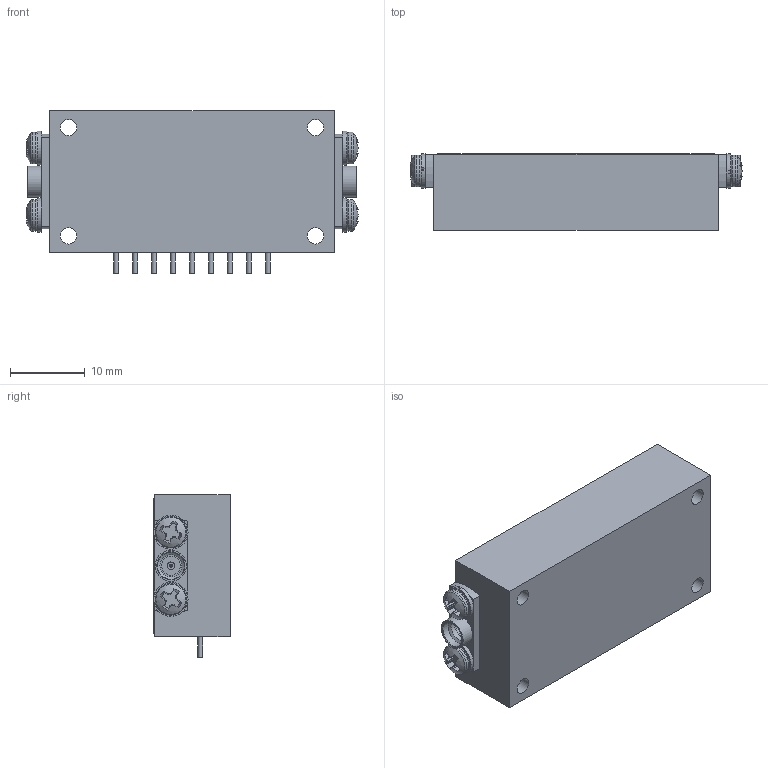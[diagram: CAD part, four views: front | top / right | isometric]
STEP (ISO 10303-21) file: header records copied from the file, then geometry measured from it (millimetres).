
FILE_DESCRIPTION (( 'STEP AP214' ), '1' );
FILE_NAME ('ASSEMBLY - DTA-2G18G-31D5-6-SMP-HERM (REV 4).STEP', '2026-08-11T21:32:19', ( '' ), ( '' ), 'SwSTEP 2.0', 'SolidWorks 2025', '' );
FILE_SCHEMA (( 'AUTOMOTIVE_DESIGN' ));
Length unit declared in the file: inch
Products named in the file (1): ASSEMBLY - DTA-2G18G-31D5-6-SMP-HERM (REV 4)
Bounding box: 44.41 x 10.21 x 21.79 mm (x, y, z)
Volume: 7418.8 mm3; surface area: 5499.7 mm2
Topology: 23 solids, 23 shells, 620 faces, 2236 edges, 1865 vertices
Faces by surface type: plane 337, cylinder 175, torus 70, cone 30, sphere 8
Full cylindrical faces by diameter (mm): 0.305 x4, 0.635 x18, 0.889 x1, 1.016 x2, 1.321 x9, 1.676 x2, 1.778 x4, 1.93 x11, 2.032 x2, 2.057 x9, 2.184 x12, 2.464 x9, 2.54 x2, 2.616 x4, 2.946 x2, 3.175 x2, 3.607 x2, 3.937 x2, 4.166 x2, 4.242 x4
Entity records: 35248 total; most frequent: CARTESIAN_POINT 9519, ORIENTED_EDGE 4022, DIRECTION 3336, EDGE_CURVE 2011, VERTEX_POINT 1831, AXIS2_PLACEMENT_3D 1164, EDGE_LOOP 1036, LINE 1008
